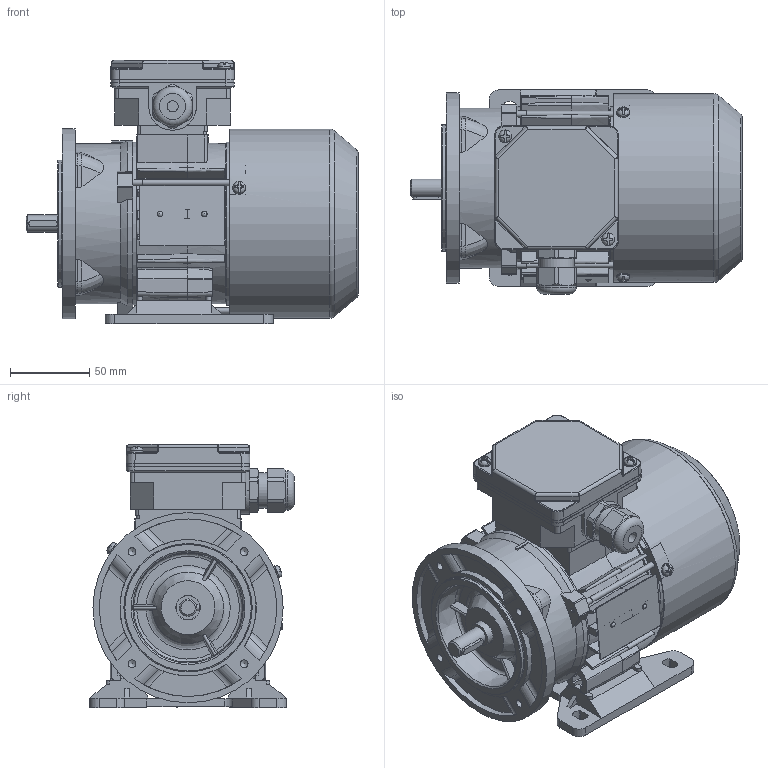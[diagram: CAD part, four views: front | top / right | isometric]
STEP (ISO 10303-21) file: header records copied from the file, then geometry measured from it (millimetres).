
FILE_DESCRIPTION(/* description */ ('Unknown'),/* implementation_level */ '2;1');
FILE_NAME(/* name */ '2SIEL63-4B1',/* time_stamp */ '2021-04-12T11:45:32+02:00',/* author */ ('Unknown'),/* organization */ ('Unknown'),/* preprocessor_version */ 'ST-DEVELOPER v16.7',/* originating_system */ 'Solid Edge',/* authorisation */ 'Unknown');
FILE_SCHEMA (('AUTOMOTIVE_DESIGN {1 0 10303 214 3 1 1}'));
Length unit declared in the file: millimetre
Products named in the file (1): 2SIEL63-4B1
Bounding box: 209.49 x 129 x 166 mm (x, y, z)
Volume: 569541.4 mm3; surface area: 342857.4 mm2
Topology: 2 solids, 2 shells, 1951 faces, 5546 edges, 3613 vertices
Faces by surface type: plane 999, cylinder 574, torus 127, bspline 116, cone 114, sphere 21
Full cylindrical faces by diameter (mm): 2.4 x2, 3.3 x3, 3.7 x7, 4 x5, 4.5 x3, 4.8 x2, 5 x6, 5.8 x4, 7 x4, 8 x6, 10.999 x1, 12.899 x1, 13.099 x1, 14.998 x2, 15.4 x2, 18.998 x2, 19.498 x1, 19.998 x1, 20.098 x1, 21.518 x4, 22.3 x1, 25 x1, 28 x2, 28.48 x4, 31 x2, 32 x1, 35 x3, 71.993 x1, 80 x1, 96 x1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
Entity records: 79478 total; most frequent: CARTESIAN_POINT 17087, ORIENTED_EDGE 10442, DIRECTION 9680, EDGE_CURVE 5221, AXIS2_PLACEMENT_3D 3521, VERTEX_POINT 3491, LINE 2638, VECTOR 2638
